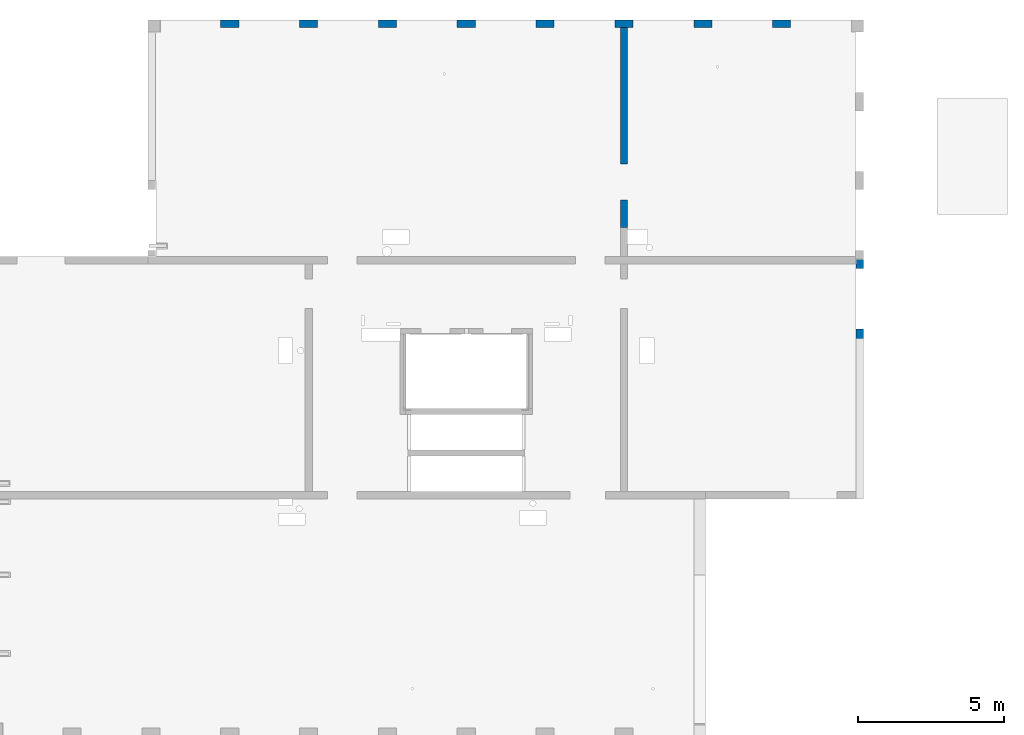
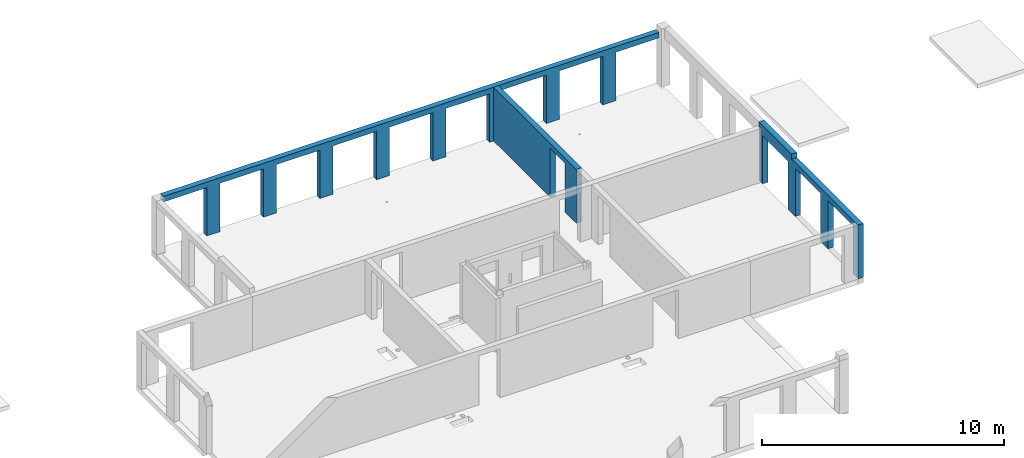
# One storey, part 10 of 14: 3 walls, 14 openings.
"""IFC2X3 building model written with IfcOpenShell, lengths in millimetres."""

import ifcopenshell
import ifcopenshell.guid

model = None  # the IFC model being written
_history = None  # IfcOwnerHistory: only IFC2X3 demands one
_inside = {}  # id of a spatial element -> (the spatial element, [elements in it])
_under = {}  # id of a project, library or spatial element -> (it, [spatial elements below it])
_declared = {}  # id of a project -> (the project, [libraries it declares])
_typed = {}  # id of a type object -> (the type object, [elements of that type])
_made_of = {}  # id of a material, layer set ... -> (it, [elements and type objects made of it])


def new_model(schema):
    """Start an empty IFC model of exactly this schema.

    Asked for "IFC4X3", IfcOpenShell would pick the latest addendum, in which some entities
    have other attributes; the version numbers below select the first issue.
    IFC2X3 requires an IfcOwnerHistory on every rooted entity: one is made here for all.
    """
    global model, _history
    if schema == "IFC4X3":
        model = ifcopenshell.file(schema_version=(4, 3, 0, 0))
    else:
        model = ifcopenshell.file(schema=schema)
    _inside.clear()
    _under.clear()
    _declared.clear()
    _typed.clear()
    _made_of.clear()
    _history = None
    if model.schema == "IFC2X3":
        org = make("IfcOrganization", Name="unknown")
        user = make(
            "IfcPersonAndOrganization",
            ThePerson=make("IfcPerson", FamilyName="unknown"),
            TheOrganization=org,
        )
        app = make(
            "IfcApplication",
            ApplicationDeveloper=org,
            Version="unknown",
            ApplicationFullName="unknown",
            ApplicationIdentifier="unknown",
        )
        _history = make(
            "IfcOwnerHistory",
            OwningUser=user,
            OwningApplication=app,
            ChangeAction="ADDED",
            CreationDate=0,
        )
    return model


def make(cls, **values):
    """One entity of the class cls with the attributes given. An attribute that is None is left unset."""
    return model.create_entity(
        cls, **{name: value for name, value in values.items() if value is not None}
    )


def entity(cls, *values):
    """Any entity or typed value of the class cls, its attributes in the order of the schema. None: left unset."""
    e = model.create_entity(cls)
    for i, value in enumerate(values):
        if value is not None:
            e[i] = value
    return e


def rooted(cls, **values):
    """An entity with a GlobalId (a new one), such as an element, a storey or a relation."""
    return make(cls, GlobalId=ifcopenshell.guid.new(), OwnerHistory=_history, **values)


def si_unit(unit_type, name, prefix=None):
    """IfcSIUnit, for example si_unit("LENGTHUNIT", "METRE", prefix="MILLI")."""
    return make("IfcSIUnit", UnitType=unit_type, Prefix=prefix, Name=name)


def converted_unit(unit_type, name, factor, base, dimensions=None, offset=None):
    """IfcConversionBasedUnit, such as the inch: factor (a typed value) times the base unit."""
    return make(
        "IfcConversionBasedUnit"
        if offset is None
        else "IfcConversionBasedUnitWithOffset",
        ConversionOffset=offset,
        Dimensions=None
        if dimensions is None
        else entity("IfcDimensionalExponents", *dimensions),
        UnitType=unit_type,
        Name=name,
        ConversionFactor=make(
            "IfcMeasureWithUnit", ValueComponent=factor, UnitComponent=base
        ),
    )


def derived_unit(unit_type, elements):
    """IfcDerivedUnit: a product of units, each with its exponent."""
    return make(
        "IfcDerivedUnit",
        Elements=[
            make("IfcDerivedUnitElement", Unit=unit, Exponent=power)
            for unit, power in elements
        ],
        UnitType=unit_type,
    )


def assignment(units):
    """IfcUnitAssignment: the units of a project."""
    return None if units is None else make("IfcUnitAssignment", Units=units)


def point(xyz):
    """IfcCartesianPoint."""
    return None if xyz is None else make("IfcCartesianPoint", Coordinates=xyz)


def direction(xyz):
    """IfcDirection."""
    return None if xyz is None else make("IfcDirection", DirectionRatios=xyz)


def frame(location, z_axis=None, x_axis=None):
    """IfcAxis2Placement3D, a coordinate frame: its origin and axes. An axis left out is left unset."""
    return make(
        "IfcAxis2Placement3D",
        Location=point(location),
        Axis=direction(z_axis),
        RefDirection=direction(x_axis),
    )


def frame_2d(location, x_axis=None):
    """IfcAxis2Placement2D, a coordinate frame in the plane: its origin and x axis."""
    return make(
        "IfcAxis2Placement2D", Location=point(location), RefDirection=direction(x_axis)
    )


def origin():
    """The frame at (0, 0, 0) with its axes left unset."""
    return frame((0.0, 0.0, 0.0))


def place(relative_to, where):
    """IfcLocalPlacement: puts the frame where relative to a parent placement (None: the world)."""
    return make(
        "IfcLocalPlacement", PlacementRelTo=relative_to, RelativePlacement=where
    )


def context(
    kind, dimensions, precision=None, world=None, true_north=None, identifier=None
):
    """IfcGeometricRepresentationContext, for example the 3D "Model" context."""
    return make(
        "IfcGeometricRepresentationContext",
        ContextIdentifier=identifier,
        ContextType=kind,
        CoordinateSpaceDimension=dimensions,
        Precision=precision,
        WorldCoordinateSystem=world,
        TrueNorth=true_north,
    )


def subcontext(parent, identifier, kind, view, scale=None):
    """IfcGeometricRepresentationSubContext, for example "Body" below "Model"."""
    return make(
        "IfcGeometricRepresentationSubContext",
        ContextIdentifier=identifier,
        ContextType=kind,
        ParentContext=parent,
        TargetScale=scale,
        TargetView=view,
    )


def project(units=None, contexts=None):
    """IfcProject with its units and contexts."""
    return rooted(
        "IfcProject",
        Name="project",
        RepresentationContexts=contexts,
        UnitsInContext=assignment(units),
    )


def spatial(cls, under=None, at=None, **own):
    """A site, building, storey or space (cls), placed at a placement, below another one or the project."""
    s = rooted(cls, ObjectPlacement=at, **own)
    if under is not None:
        _under.setdefault(under.id(), (under, []))[1].append(s)
    return s


def profile(cls, at=None, kind="AREA", **sizes):
    """A parametric profile (cls). Its sizes go by their IFC names, for example OverallWidth=200.0."""
    return make(cls, ProfileType=kind, Position=at, **sizes)


def rectangle(**sizes):
    """IfcRectangleProfileDef."""
    return profile("IfcRectangleProfileDef", **sizes)


def extrude(swept, where, along, depth):
    """IfcExtrudedAreaSolid: the profile swept, set in the frame where, extruded along a direction by depth."""
    return make(
        "IfcExtrudedAreaSolid",
        SweptArea=swept,
        Position=where,
        ExtrudedDirection=direction(along),
        Depth=depth,
    )


def shape(context_of_items, identifier, shape_type, items):
    """IfcShapeRepresentation: the items that make up one representation, for example the "Body"."""
    return make(
        "IfcShapeRepresentation",
        ContextOfItems=context_of_items,
        RepresentationIdentifier=identifier,
        RepresentationType=shape_type,
        Items=items,
    )


def material(Name=None, Category=None):
    """IfcMaterial."""
    return make("IfcMaterial", Name=Name, Category=Category)


def layer(
    of_material, thickness, ventilated=None, Name=None, Category=None, Priority=None
):
    """IfcMaterialLayer: one layer of a wall or slab, of a material (None: an air gap)."""
    return make(
        "IfcMaterialLayer",
        Material=of_material,
        LayerThickness=thickness,
        IsVentilated=ventilated,
        Name=Name,
        Category=Category,
        Priority=Priority,
    )


def layer_set(layers, Name=None):
    """IfcMaterialLayerSet."""
    return make("IfcMaterialLayerSet", MaterialLayers=layers, LayerSetName=Name)


def layer_usage(for_layer_set, set_direction, sense, offset, extent=None):
    """IfcMaterialLayerSetUsage: how a layer set lies in its element."""
    return make(
        "IfcMaterialLayerSetUsage",
        ForLayerSet=for_layer_set,
        LayerSetDirection=set_direction,
        DirectionSense=sense,
        OffsetFromReferenceLine=offset,
        ReferenceExtent=extent,
    )


def made_of(thing, what):
    """Note that an element or type object is made of a material, layer set ...; save() writes the relation."""
    if what is not None:
        _made_of.setdefault(what.id(), (what, []))[1].append(thing)
    return thing


def type_object(cls, material=None, **own):
    """A type object (cls), such as IfcWallType, which elements share."""
    return made_of(rooted(cls, **own), material)


def element(
    cls,
    number,
    at=None,
    inside=None,
    cuts=None,
    type_object=None,
    material=None,
    context=None,
    identifier="Body",
    shape_type=None,
    held_by="IfcProductDefinitionShape",
    body=None,
    shapes=None,
    **own,
):
    """One element of the class cls, such as IfcWall. Its Tag is "e" and its number.

    at: its placement. inside: the storey or other place that contains it. cuts: it is an
    opening in that element (IfcRelVoidsElement). A single representation is given by context,
    identifier, shape_type and body (its items); several are given by shapes. held_by: the class
    of the entity that holds the representations. save() writes the other relations.
    """
    e = rooted(cls, Tag="e%d" % number, ObjectPlacement=at, **own)
    if body is not None:
        shapes = [shape(context, identifier, shape_type, body)]
    if shapes is not None:
        e.Representation = make(held_by, Representations=shapes)
    if inside is not None:
        _inside.setdefault(inside.id(), (inside, []))[1].append(e)
    if cuts is not None:
        rooted(
            "IfcRelVoidsElement", RelatingBuildingElement=cuts, RelatedOpeningElement=e
        )
    if type_object is not None:
        _typed.setdefault(type_object.id(), (type_object, []))[1].append(e)
    return made_of(e, material)


def aggregate(whole, parts):
    """IfcRelAggregates: a whole, such as a stair, and the parts it consists of."""
    return rooted("IfcRelAggregates", RelatingObject=whole, RelatedObjects=parts)


def save(model, path):
    """Write the relations noted so far, then the file.

    IfcRelAggregates (storeys below a building ...), IfcRelContainedInSpatialStructure (elements
    in a storey), IfcRelDefinesByType, IfcRelAssociatesMaterial and IfcRelDeclares: one each for
    every whole, place, type object, material and project.
    """
    for whole, parts in _under.values():
        aggregate(whole, parts)
    for where, things in _inside.values():
        rooted(
            "IfcRelContainedInSpatialStructure",
            RelatedElements=things,
            RelatingStructure=where,
        )
    for kind, things in _typed.values():
        rooted("IfcRelDefinesByType", RelatedObjects=things, RelatingType=kind)
    for what, things in _made_of.values():
        rooted("IfcRelAssociatesMaterial", RelatedObjects=things, RelatingMaterial=what)
    for by, libraries in _declared.values():
        rooted("IfcRelDeclares", RelatingContext=by, RelatedDefinitions=libraries)
    model.write(path)


model = new_model("IFC2X3")

# Units and contexts
model_context = context("Model", 3, precision=0.01, world=origin(), true_north=direction((6.12303176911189e-17, 1.0)))
body_context = subcontext(model_context, "Body", "Model", "MODEL_VIEW")
ifc_project = project(units=[si_unit("LENGTHUNIT", "METRE", prefix="MILLI"), si_unit("AREAUNIT", "SQUARE_METRE"), si_unit("VOLUMEUNIT", "CUBIC_METRE"), converted_unit("PLANEANGLEUNIT", "DEGREE", entity("IfcRatioMeasure", 0.0174532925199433), si_unit("PLANEANGLEUNIT", "RADIAN"), dimensions=[0, 0, 0, 0, 0, 0, 0]), si_unit("MASSUNIT", "GRAM", prefix="KILO"), derived_unit("MASSDENSITYUNIT", [(si_unit("MASSUNIT", "GRAM", prefix="KILO"), 1), (si_unit("LENGTHUNIT", "METRE"), -3)]), si_unit("TIMEUNIT", "SECOND"), si_unit("FREQUENCYUNIT", "HERTZ"), si_unit("THERMODYNAMICTEMPERATUREUNIT", "DEGREE_CELSIUS"), derived_unit("THERMALTRANSMITTANCEUNIT", [(si_unit("MASSUNIT", "GRAM", prefix="KILO"), 1), (si_unit("THERMODYNAMICTEMPERATUREUNIT", "KELVIN"), -1), (si_unit("TIMEUNIT", "SECOND"), -3)]), derived_unit("VOLUMETRICFLOWRATEUNIT", [(si_unit("LENGTHUNIT", "METRE"), 3), (si_unit("TIMEUNIT", "SECOND"), -1)]), si_unit("ELECTRICCURRENTUNIT", "AMPERE"), si_unit("ELECTRICVOLTAGEUNIT", "VOLT"), si_unit("POWERUNIT", "WATT"), si_unit("FORCEUNIT", "NEWTON", prefix="KILO"), si_unit("ILLUMINANCEUNIT", "LUX"), si_unit("LUMINOUSFLUXUNIT", "LUMEN"), si_unit("LUMINOUSINTENSITYUNIT", "CANDELA"), derived_unit("USERDEFINED", [(si_unit("MASSUNIT", "GRAM", prefix="KILO"), -1), (si_unit("LENGTHUNIT", "METRE"), -2), (si_unit("TIMEUNIT", "SECOND"), 3), (si_unit("LUMINOUSFLUXUNIT", "LUMEN"), 1)]), derived_unit("LINEARVELOCITYUNIT", [(si_unit("LENGTHUNIT", "METRE"), 1), (si_unit("TIMEUNIT", "SECOND"), -1)]), si_unit("PRESSUREUNIT", "PASCAL"), derived_unit("USERDEFINED", [(si_unit("LENGTHUNIT", "METRE"), -2), (si_unit("MASSUNIT", "GRAM", prefix="KILO"), 1), (si_unit("TIMEUNIT", "SECOND"), -2)])], contexts=[model_context])

# Site, building, storey
site_placement = place(None, origin())
site = spatial("IfcSite", under=ifc_project, at=site_placement, Name="Default", CompositionType="ELEMENT")
building_placement = place(site_placement, origin())
building = spatial("IfcBuilding", under=site, at=building_placement, Name="niet gebruiken", CompositionType="ELEMENT")
storey_placement = place(building_placement, frame((0.0, 0.0, 15570.0)))
storey = spatial("IfcBuildingStorey", under=building, at=storey_placement, Name="05 vijfde verdieping", CompositionType="ELEMENT", Elevation=15570.0)

# Wall, opening
ifc_material_1 = material(Name="NLRS_f2_beton ihwg")
ifc_layer_1 = layer(ifc_material_1, 250.0)
ifc_layer_set_1 = layer_set([ifc_layer_1], Name="Basic Wall:NLRS_22.21_WA_beton ihwg d=250_gen")
ifc_layer_usage_1 = layer_usage(ifc_layer_set_1, "AXIS2", "NEGATIVE", 125.0)
wall_type_1 = type_object("IfcWallType", Name="Basic Wall:NLRS_22.21_WA_beton ihwg d=250_gen", PredefinedType="STANDARD", material=ifc_layer_set_1)
wall_1_placement = place(storey_placement, frame((97200.0, 53006.0, -90.0), z_axis=(0.0, 0.0, 1.0), x_axis=(0.0, -1.0, 0.0)))
wall_1 = element("IfcWallStandardCase", 1, at=wall_1_placement, inside=storey, type_object=wall_type_1, material=ifc_layer_usage_1, Name="Basic Wall:NLRS_22.21_WA_beton ihwg d=250_gen", ObjectType="Basic Wall:NLRS_22.21_WA_beton ihwg d=250_gen", context=body_context, shape_type="SweptSolid", body=[
    extrude(rectangle(XDim=6850.00000000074, YDim=250.000000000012, at=frame_2d((3425.00000000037, -1.10134124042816e-12), x_axis=(-1.0, 0.0))), origin(), (0.0, 0.0, 1.0), 2719.99999999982),
])
opening_1_placement = place(wall_1_placement, origin())
element("IfcOpeningElement", 2, at=opening_1_placement, cuts=wall_1, Name="Basic Wall:NLRS_22.21_WA_beton ihwg d=250_gen", ObjectType="Opening", context=body_context, shape_type="SweptSolid", body=[
    extrude(rectangle(XDim=2470.0, YDim=1240.0, at=frame_2d((0.0, -4.37694325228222e-12), x_axis=(1.0, 0.0))), frame((5300.0, -1649.0, 1235.0), z_axis=(0.0, 1.0, 0.0), x_axis=(0.0, 0.0, 1.0)), (0.0, 0.0, 1.0), 3048.0),
])

# Wall, openings
ifc_material_2 = material(Name="NLRS_f2_beton prefab")
ifc_layer_2 = layer(ifc_material_2, 250.0)
ifc_layer_set_2 = layer_set([ifc_layer_2], Name="Basic Wall:NLRS_21.21_WA_beton prefab d=250_gen")
ifc_layer_usage_2 = layer_usage(ifc_layer_set_2, "AXIS2", "NEGATIVE", 125.0)
wall_type_2 = type_object("IfcWallType", Name="Basic Wall:NLRS_21.21_WA_beton prefab d=250_gen", PredefinedType="STANDARD", material=ifc_layer_set_2)
wall_2_placement = place(storey_placement, frame((105275.0, 45046.0, -70.0), z_axis=(0.0, 0.0, 1.0), x_axis=(0.0, -1.0, 0.0)))
wall_2 = element("IfcWallStandardCase", 3, at=wall_2_placement, inside=storey, type_object=wall_type_2, material=ifc_layer_usage_2, Name="Basic Wall:NLRS_21.21_WA_beton prefab d=250_gen", ObjectType="Basic Wall:NLRS_21.21_WA_beton prefab d=250_gen", context=body_context, shape_type="SweptSolid", body=[
    extrude(rectangle(XDim=8189.99999999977, YDim=250.000000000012, at=frame_2d((4094.99999999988, 0.0), x_axis=(-1.0, 0.0))), origin(), (0.0, 0.0, 1.0), 2949.99999999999),
])
opening_2_placement = place(wall_2_placement, origin())
element("IfcOpeningElement", 4, at=opening_2_placement, cuts=wall_2, Name="Basic Wall:NLRS_21.21_WA_beton prefab d=250_gen", ObjectType="Opening", context=body_context, shape_type="SweptSolid", body=[
    extrude(rectangle(XDim=2420.0, YDim=2080.0, at=frame_2d((0.0, -1.02318153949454e-12), x_axis=(0.0, 1.0))), frame((1340.0, -1399.0, 1210.0), z_axis=(0.0, 1.0, 0.0), x_axis=(-1.0, 0.0, 0.0)), (0.0, 0.0, 1.0), 3048.0),
])
opening_3_placement = place(wall_2_placement, origin())
element("IfcOpeningElement", 5, at=opening_3_placement, cuts=wall_2, Name="Basic Wall:NLRS_21.21_WA_beton prefab d=250_gen", ObjectType="Opening", context=body_context, shape_type="SweptSolid", body=[
    extrude(rectangle(XDim=2420.0, YDim=2080.0, at=frame_2d((0.0, -1.02318153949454e-12), x_axis=(0.0, 1.0))), frame((4040.0, -1399.0, 1210.0), z_axis=(0.0, 1.0, 0.0), x_axis=(-1.0, 0.0, 0.0)), (0.0, 0.0, 1.0), 3048.0),
])
opening_4_placement = place(wall_2_placement, origin())
element("IfcOpeningElement", 6, at=opening_4_placement, cuts=wall_2, Name="Basic Wall:NLRS_21.21_WA_beton prefab d=250_gen", ObjectType="Opening", context=body_context, shape_type="SweptSolid", body=[
    extrude(rectangle(XDim=2420.0, YDim=2080.0, at=frame_2d((0.0, -1.02318153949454e-12), x_axis=(0.0, 1.0))), frame((6740.0, -1399.0, 1210.0), z_axis=(0.0, 1.0, 0.0), x_axis=(-1.0, 0.0, 0.0)), (0.0, 0.0, 1.0), 3048.0),
])
opening_5_placement = place(wall_2_placement, origin())
element("IfcOpeningElement", 7, at=opening_5_placement, cuts=wall_2, Name="Basic Wall:NLRS_21.21_WA_beton prefab d=250_gen", ObjectType="Opening", context=body_context, shape_type="SweptSolid", body=[
    extrude(rectangle(XDim=249.999999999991, YDim=5500.0000000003, at=frame_2d((0.0, 4.32009983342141e-12), x_axis=(1.0, 0.0))), frame((5440.0, 125.0, 2825.0), z_axis=(0.0, -1.0, 0.0), x_axis=(0.0, 0.0, 1.0)), (0.0, 0.0, 1.0), 250.0),
])

ifc_layer_3 = layer(ifc_material_1, 250.0)
ifc_layer_set_3 = layer_set([ifc_layer_3], Name="Basic Wall:NLRS_21.21_WA_beton ihwg d=250_gen")
ifc_layer_usage_3 = layer_usage(ifc_layer_set_3, "AXIS2", "NEGATIVE", 125.0)
wall_type_3 = type_object("IfcWallType", Name="Basic Wall:NLRS_21.21_WA_beton ihwg d=250_gen", PredefinedType="STANDARD", material=ifc_layer_set_3)
wall_3_placement = place(storey_placement, frame((104970.0, 53131.0, -90.0), z_axis=(0.0, 0.0, 1.0), x_axis=(-1.0, 0.0, 0.0)))
wall_3 = element("IfcWallStandardCase", 8, at=wall_3_placement, inside=storey, type_object=wall_type_3, material=ifc_layer_usage_3, Name="Basic Wall:NLRS_21.21_WA_beton ihwg d=250_gen", ObjectType="Basic Wall:NLRS_21.21_WA_beton ihwg d=250_gen", context=body_context, shape_type="SweptSolid", body=[
    extrude(rectangle(XDim=23640.0000000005, YDim=249.999999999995, at=frame_2d((11820.0000000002, 5.82645043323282e-13), x_axis=(-1.0, 0.0))), origin(), (0.0, 0.0, 1.0), 2720.0),
])
opening_6_placement = place(wall_3_placement, origin())
element("IfcOpeningElement", 9, at=opening_6_placement, cuts=wall_3, Name="Basic Wall:NLRS_21.21_WA_beton ihwg d=250_gen", ObjectType="Opening", context=body_context, shape_type="SweptSolid", body=[
    extrude(rectangle(XDim=2440.0, YDim=2080.0, at=frame_2d((-8.64019966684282e-12, -1.13686837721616e-12), x_axis=(0.0, 1.0))), frame((22620.0, -1399.0, 1220.0), z_axis=(0.0, 1.0, 0.0), x_axis=(-1.0, 0.0, 0.0)), (0.0, 0.0, 1.0), 3048.0),
])
opening_7_placement = place(wall_3_placement, origin())
element("IfcOpeningElement", 10, at=opening_7_placement, cuts=wall_3, Name="Basic Wall:NLRS_21.21_WA_beton ihwg d=250_gen", ObjectType="Opening", context=body_context, shape_type="SweptSolid", body=[
    extrude(rectangle(XDim=2440.0, YDim=2080.0, at=frame_2d((8.64019966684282e-12, 1.13686837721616e-12), x_axis=(0.0, 1.0))), frame((19920.0, -1399.0, 1220.0), z_axis=(0.0, 1.0, 0.0), x_axis=(-1.0, 0.0, 0.0)), (0.0, 0.0, 1.0), 3048.0),
])
opening_8_placement = place(wall_3_placement, origin())
element("IfcOpeningElement", 11, at=opening_8_placement, cuts=wall_3, Name="Basic Wall:NLRS_21.21_WA_beton ihwg d=250_gen", ObjectType="Opening", context=body_context, shape_type="SweptSolid", body=[
    extrude(rectangle(XDim=2440.0, YDim=2080.0, at=frame_2d((8.64019966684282e-12, -1.13686837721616e-12), x_axis=(0.0, 1.0))), frame((17220.0, -1399.0, 1220.0), z_axis=(0.0, 1.0, 0.0), x_axis=(-1.0, 0.0, 0.0)), (0.0, 0.0, 1.0), 3048.0),
])
opening_9_placement = place(wall_3_placement, origin())
element("IfcOpeningElement", 12, at=opening_9_placement, cuts=wall_3, Name="Basic Wall:NLRS_21.21_WA_beton ihwg d=250_gen", ObjectType="Opening", context=body_context, shape_type="SweptSolid", body=[
    extrude(rectangle(XDim=2440.0, YDim=2080.0, at=frame_2d((-8.64019966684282e-12, 1.13686837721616e-12), x_axis=(0.0, 1.0))), frame((14520.0, -1399.0, 1220.0), z_axis=(0.0, 1.0, 0.0), x_axis=(-1.0, 0.0, 0.0)), (0.0, 0.0, 1.0), 3048.0),
])
opening_10_placement = place(wall_3_placement, origin())
element("IfcOpeningElement", 13, at=opening_10_placement, cuts=wall_3, Name="Basic Wall:NLRS_21.21_WA_beton ihwg d=250_gen", ObjectType="Opening", context=body_context, shape_type="SweptSolid", body=[
    extrude(rectangle(XDim=2440.0, YDim=2080.0, at=frame_2d((8.64019966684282e-12, -1.13686837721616e-12), x_axis=(0.0, 1.0))), frame((11820.0, -1399.0, 1220.0), z_axis=(0.0, 1.0, 0.0), x_axis=(-1.0, 0.0, 0.0)), (0.0, 0.0, 1.0), 3048.0),
])
opening_11_placement = place(wall_3_placement, origin())
element("IfcOpeningElement", 14, at=opening_11_placement, cuts=wall_3, Name="Basic Wall:NLRS_21.21_WA_beton ihwg d=250_gen", ObjectType="Opening", context=body_context, shape_type="SweptSolid", body=[
    extrude(rectangle(XDim=2440.0, YDim=2080.0, at=frame_2d((8.64019966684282e-12, 1.13686837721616e-12), x_axis=(0.0, 1.0))), frame((9120.0, -1399.0, 1220.0), z_axis=(0.0, 1.0, 0.0), x_axis=(-1.0, 0.0, 0.0)), (0.0, 0.0, 1.0), 3048.0),
])
opening_12_placement = place(wall_3_placement, origin())
element("IfcOpeningElement", 15, at=opening_12_placement, cuts=wall_3, Name="Basic Wall:NLRS_21.21_WA_beton ihwg d=250_gen", ObjectType="Opening", context=body_context, shape_type="SweptSolid", body=[
    extrude(rectangle(XDim=2440.0, YDim=2080.0, at=frame_2d((-8.64019966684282e-12, -1.13686837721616e-12), x_axis=(0.0, 1.0))), frame((6420.0, -1399.0, 1220.0), z_axis=(0.0, 1.0, 0.0), x_axis=(-1.0, 0.0, 0.0)), (0.0, 0.0, 1.0), 3048.0),
])
opening_13_placement = place(wall_3_placement, origin())
element("IfcOpeningElement", 16, at=opening_13_placement, cuts=wall_3, Name="Basic Wall:NLRS_21.21_WA_beton ihwg d=250_gen", ObjectType="Opening", context=body_context, shape_type="SweptSolid", body=[
    extrude(rectangle(XDim=2440.0, YDim=2080.0, at=frame_2d((-8.64019966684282e-12, 1.13686837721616e-12), x_axis=(0.0, 1.0))), frame((3720.0, -1399.0, 1220.0), z_axis=(0.0, 1.0, 0.0), x_axis=(-1.0, 0.0, 0.0)), (0.0, 0.0, 1.0), 3048.0),
])
opening_14_placement = place(wall_3_placement, origin())
element("IfcOpeningElement", 17, at=opening_14_placement, cuts=wall_3, Name="Basic Wall:NLRS_21.21_WA_beton ihwg d=250_gen", ObjectType="Opening", context=body_context, shape_type="SweptSolid", body=[
    extrude(rectangle(XDim=2440.0, YDim=2080.0, at=frame_2d((8.64019966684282e-12, -1.13686837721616e-12), x_axis=(0.0, 1.0))), frame((1020.0, -1399.0, 1220.0), z_axis=(0.0, 1.0, 0.0), x_axis=(-1.0, 0.0, 0.0)), (0.0, 0.0, 1.0), 3048.0),
])

save(model, "model.ifc")
